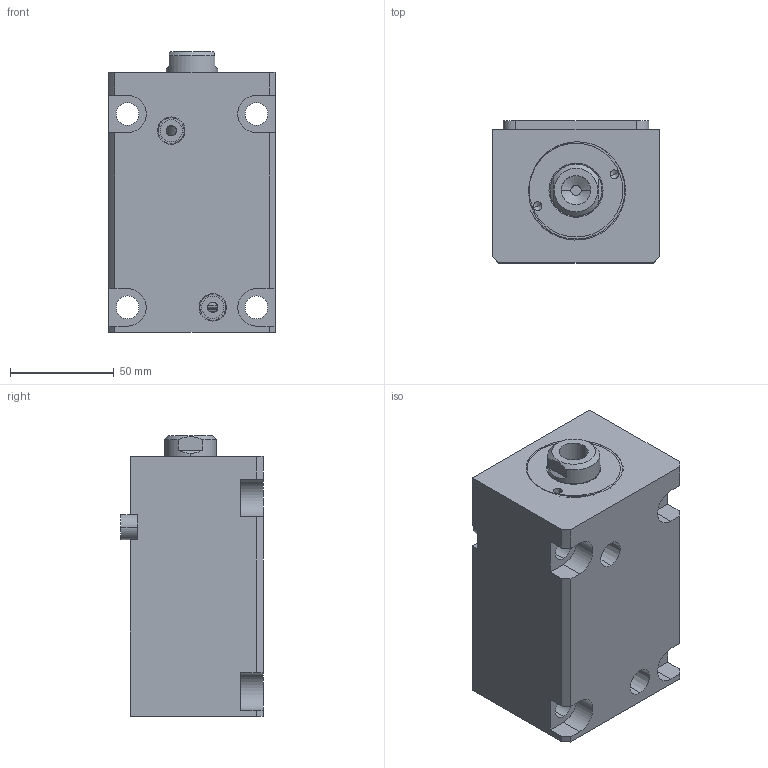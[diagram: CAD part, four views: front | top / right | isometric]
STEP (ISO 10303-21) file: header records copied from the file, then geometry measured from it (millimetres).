
FILE_DESCRIPTION (( 'STEP AP214' ), '1' );
FILE_NAME ('chtb-la40x70n_asm.STEP', '2018-05-31T01:54:39', ( 'Windows' ), ( 'Microsoft' ), 'SwSTEP 2.0', 'SolidWorks 2015', '' );
FILE_SCHEMA (( 'AUTOMOTIVE_DESIGN' ));
Length unit declared in the file: millimetre
Products named in the file (5): CHTB-LA40PJ; CHTB-SD40QG; CHTB-SD40X70NHSG; CHTB-LA40X70NBT; chtb-la40x70n_asm
Assembly tree (4 placements, depth 2):
  chtb-la40x70n_asm
    CHTB-LA40X70NBT
    CHTB-SD40X70NHSG
    CHTB-SD40QG
    CHTB-LA40PJ
Bounding box: 80 x 68.5 x 135 mm (x, y, z)
Volume: 547312.7 mm3; surface area: 99639.5 mm2
Topology: 4 solids, 4 shells, 160 faces, 430 edges, 286 vertices
Faces by surface type: cylinder 73, plane 48, bspline 14, cone 13, torus 12
Entity records: 10258 total; most frequent: CARTESIAN_POINT 6106, ORIENTED_EDGE 848, DIRECTION 787, EDGE_CURVE 424, AXIS2_PLACEMENT_3D 314, VERTEX_POINT 286, EDGE_LOOP 188, CIRCLE 161
